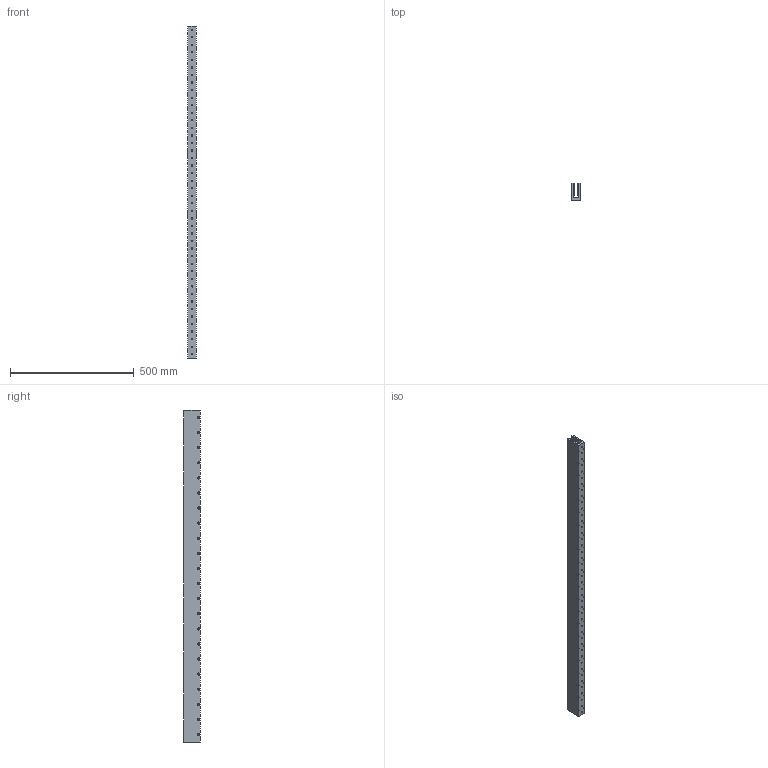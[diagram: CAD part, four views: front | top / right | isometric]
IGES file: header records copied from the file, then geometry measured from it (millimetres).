
Global section: file name: No Iges File Name specified; native system: Autodesk Inventor 2012; preprocessor: AutoDesk Inventor Iges Exporter R2012; author: je17857; date: 20120511.155335; units: inch
Bounding box: 34.29 x 67.31 x 1340.87 mm (x, y, z)
Volume: 1976588 mm3; surface area: 515826.5 mm2
Topology: 1 solids, 1 shells, 648 faces, 1498 edges, 1006 vertices
Faces by surface type: plane 516, revolution 132
